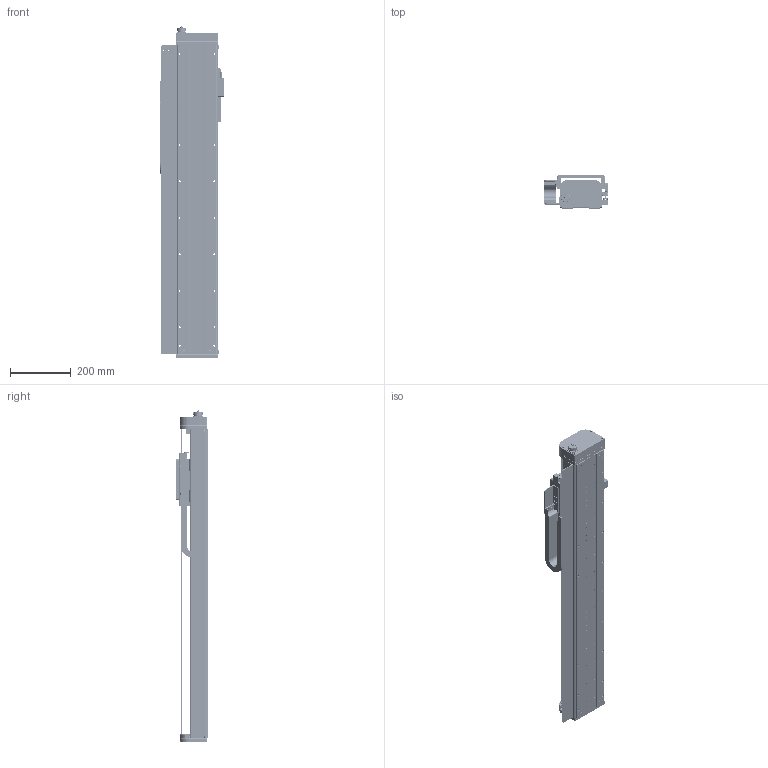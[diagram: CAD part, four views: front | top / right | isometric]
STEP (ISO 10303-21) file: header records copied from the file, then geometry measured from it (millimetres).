
FILE_DESCRIPTION (( 'STEP AP203' ), '1' );
FILE_NAME ('AL0700(Zero position).STEP', '2022-06-30T09:23:19', ( '' ), ( '' ), 'SwSTEP 2.0', 'SolidWorks 2016', '' );
FILE_SCHEMA (( 'CONFIG_CONTROL_DESIGN' ));
Products named in the file (1): AL0700(Zero position)
Bounding box: 213 x 107.02 x 1092.6 mm (x, y, z)
Volume: 5989571.2 mm3; surface area: 1956942.8 mm2
Topology: 51 solids, 56 shells, 7834 faces, 21130 edges, 13800 vertices
Faces by surface type: plane 4131, cylinder 2045, bspline 1239, cone 419
Entity records: 313043 total; most frequent: CARTESIAN_POINT 124770, ORIENTED_EDGE 41978, DIRECTION 33661, EDGE_CURVE 20989, VERTEX_POINT 13799, VECTOR 13691, LINE 13691, AXIS2_PLACEMENT_3D 9985
